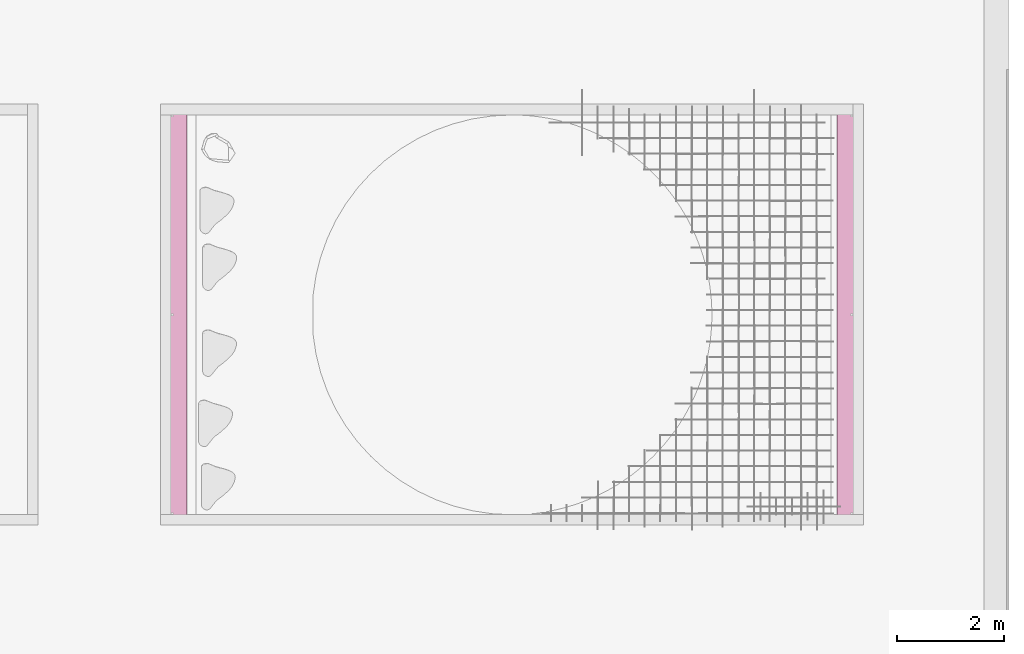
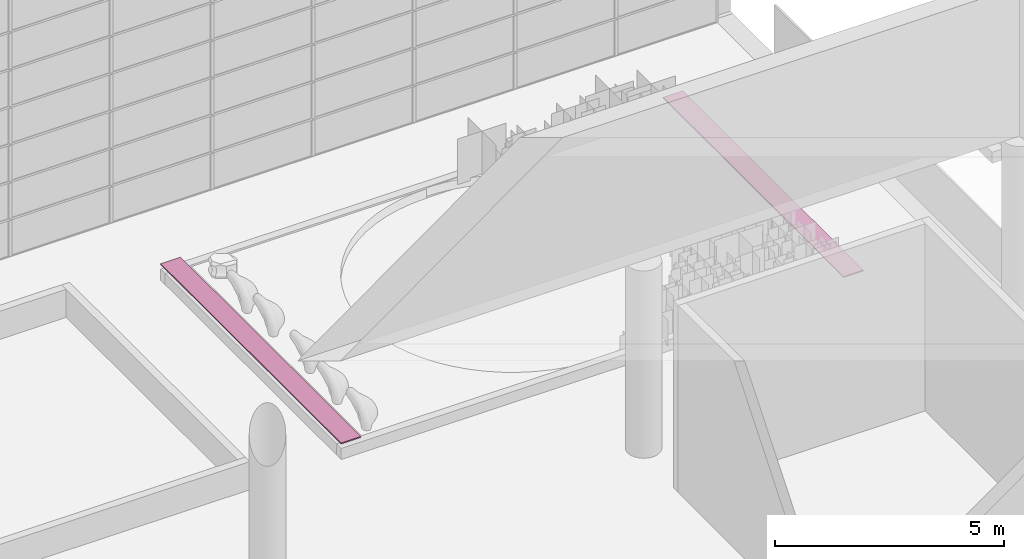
# One storey, part 102 of 105: 2 furniture elements.
"""IFC4 building model written with IfcOpenShell, lengths in millimetres."""

from ifc_helpers import new_model, entity, si_unit, converted_unit, derived_unit, direction, frame, origin_with_axes, place, context, subcontext, project, spatial, line, indexed_curve, outline, extrude, source, transform, mapped, material, type_object, element, save


model = new_model("IFC4")

# Units and contexts
model_context = context("Model", 3, precision=1e-05, world=origin_with_axes(), true_north=direction((0.0, 1.0)))
body_context = subcontext(model_context, "Body", "Model", "MODEL_VIEW")
ifc_project = project(units=[si_unit("LENGTHUNIT", "METRE", prefix="MILLI"), si_unit("AREAUNIT", "SQUARE_METRE"), si_unit("VOLUMEUNIT", "CUBIC_METRE"), converted_unit("PLANEANGLEUNIT", "DEGREE", entity("IfcLengthMeasure", 0.017453), si_unit("PLANEANGLEUNIT", "RADIAN"), dimensions=[0, 0, 0, 0, 0, 0, 0]), si_unit("SOLIDANGLEUNIT", "STERADIAN"), si_unit("MASSUNIT", "GRAM"), si_unit("TIMEUNIT", "SECOND"), si_unit("THERMODYNAMICTEMPERATUREUNIT", "DEGREE_CELSIUS"), si_unit("LUMINOUSINTENSITYUNIT", "LUMEN"), si_unit("POWERUNIT", "WATT"), derived_unit("THERMALTRANSMITTANCEUNIT", [(si_unit("POWERUNIT", "WATT"), 1), (si_unit("THERMODYNAMICTEMPERATUREUNIT", "KELVIN"), -1), (si_unit("AREAUNIT", "SQUARE_METRE"), -1)])], contexts=[model_context])

# Site, building, storey
site_placement = place(None, origin_with_axes())
site = spatial("IfcSite", under=ifc_project, at=site_placement, Name="Default Site", CompositionType="ELEMENT")
building_placement = place(site_placement, origin_with_axes())
building = spatial("IfcBuilding", under=site, at=building_placement, Name="Default Building", CompositionType="ELEMENT")
storey_placement = place(building_placement, origin_with_axes())
storey = spatial("IfcBuildingStorey", under=building, at=storey_placement, Name="OG - Story", CompositionType="ELEMENT", Elevation=0.0)

# Furniture
ifc_material = material(Name="Default")
furniture_type_1 = type_object("IfcFurnitureType", Name="IfcFurnitureType", PredefinedType="NOTDEFINED", material=ifc_material)
shared_shape = source(origin_with_axes(), body_context, "Body", "SweptSolid", [
    extrude(outline(indexed_curve([(76519.438, -38139.199), (77019.438, -38139.199), (77019.438, -30239.262), (76519.438, -30239.262)], segments=[line(1, 2), line(2, 3), line(3, 4), line(4, 1)])), frame((0.0, 0.0, 3410.0), z_axis=(0.0, 0.0, 1.0), x_axis=(1.0, 0.0, 0.0)), (0.0, 0.0, 1.0), 30.0),
])
furniture_1_placement = place(storey_placement, frame((140847.45726, 0.0, 0.0), z_axis=(0.0, 0.0, 1.0), x_axis=(-1.0, 0.0, 0.0)))
element("IfcFurniture", 1, at=furniture_1_placement, inside=storey, type_object=furniture_type_1, Name="IfcFurnitureType", context=body_context, shape_type="MappedRepresentation", body=[
    mapped(shared_shape, transform((0.0, 0.0, 0.0), x_axis=(1.0, 0.0, 0.0), y_axis=(0.0, -1.0, 0.0), z_axis=(0.0, 0.0, 1.0), scale=1.0)),
])
furniture_type_2 = type_object("IfcFurnitureType", Name="Bank", PredefinedType="NOTDEFINED", material=ifc_material)
furniture_2_placement = place(storey_placement, origin_with_axes())
element("IfcFurniture", 2, at=furniture_2_placement, inside=storey, type_object=furniture_type_2, Name="Bank", context=body_context, shape_type="SweptSolid", body=[
    extrude(outline(indexed_curve([(76519.438, -38139.199), (77019.438, -38139.199), (77019.438, -30239.262), (76519.438, -30239.262)], segments=[line(1, 2), line(2, 3), line(3, 4), line(4, 1)])), frame((0.0, 0.0, 3410.0), z_axis=(0.0, 0.0, 1.0), x_axis=(1.0, 0.0, 0.0)), (0.0, 0.0, 1.0), 30.0),
])

save(model, "model.ifc")
